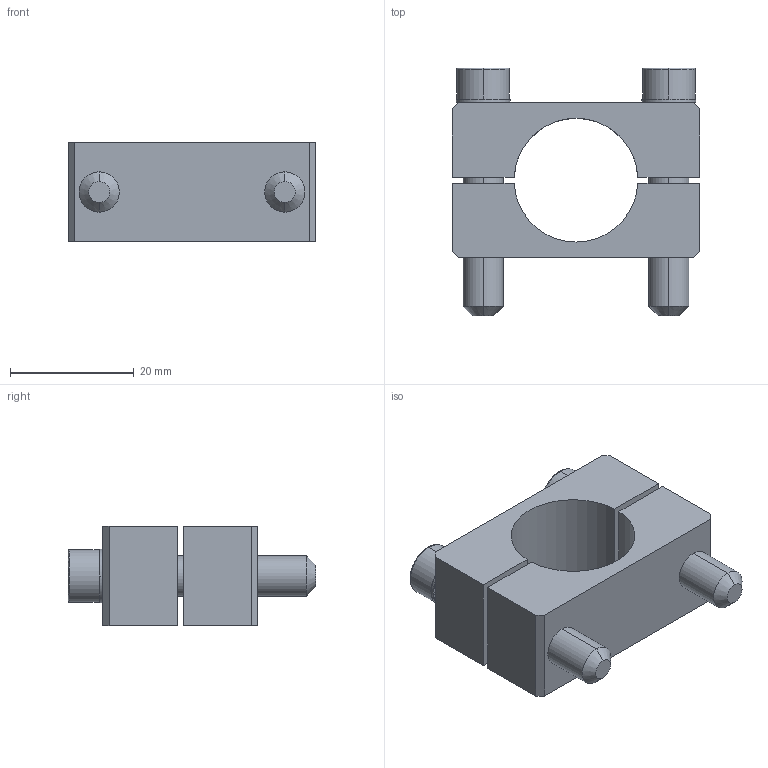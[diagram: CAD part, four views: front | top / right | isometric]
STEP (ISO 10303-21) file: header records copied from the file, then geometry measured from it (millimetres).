
FILE_DESCRIPTION (( 'STEP AP214' ), '1' );
FILE_NAME ('SMBK1-20T16.STEP', '2019-11-07T00:55:48', ( '微软用户' ), ( '微软中国' ), 'SwSTEP 2.0', 'SolidWorks 2016', '' );
FILE_SCHEMA (( 'AUTOMOTIVE_DESIGN' ));
Length unit declared in the file: millimetre
Products named in the file (1): SMBK1-20T16
Bounding box: 40 x 40 x 16 mm (x, y, z)
Volume: 11816.2 mm3; surface area: 7867 mm2
Topology: 6 solids, 6 shells, 456 faces, 1308 edges, 864 vertices
Faces by surface type: plane 422, cylinder 26, cone 4, bspline 4
Entity records: 20335 total; most frequent: CARTESIAN_POINT 2899, DIRECTION 2630, ORIENTED_EDGE 2616, EDGE_CURVE 1308, AXIS2_PLACEMENT_3D 877, LINE 876, VECTOR 876, VERTEX_POINT 864
